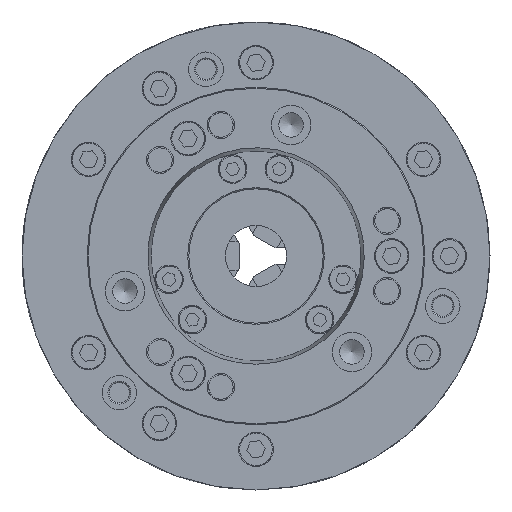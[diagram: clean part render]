
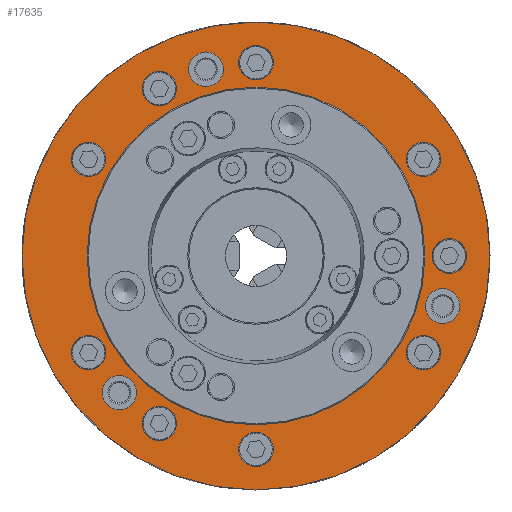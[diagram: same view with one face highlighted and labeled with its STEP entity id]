
A CAD part, left-side view. The second image highlights one B-rep face of the part: STEP entity #17635.
In plain terms, the highlighted planar face has unit normal (-1, 0, 0).
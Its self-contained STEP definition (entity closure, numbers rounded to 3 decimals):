
#86 = DIRECTION ( 'NONE',  ( 0., 0.866, -0.5 ) ) ;
#139 = CARTESIAN_POINT ( 'NONE',  ( -109.5, -74.911, -51.75 ) ) ;
#269 = VERTEX_POINT ( 'NONE', #28018 ) ;
#2335 = DIRECTION ( 'NONE',  ( -1., 0., 0. ) ) ;
#2368 = AXIS2_PLACEMENT_3D ( 'NONE', #32914, #64635, #13812 ) ;
#2852 = EDGE_CURVE ( 'NONE', #31540, #31540, #77767, .T. ) ;
#2953 = ORIENTED_EDGE ( 'NONE', *, *, #16792, .T. ) ;
#3161 = VERTEX_POINT ( 'NONE', #139 ) ;
#5115 = CIRCLE ( 'NONE', #62289, 8.5 ) ;
#5527 = AXIS2_PLACEMENT_3D ( 'NONE', #6893, #56378, #50047 ) ;
#5602 = DIRECTION ( 'NONE',  ( 1., 0., 0. ) ) ;
#6122 = CARTESIAN_POINT ( 'NONE',  ( -109.5, 47.5, -73.772 ) ) ;
#6415 = EDGE_CURVE ( 'NONE', #269, #269, #10912, .T. ) ;
#6518 = FACE_BOUND ( 'NONE', #57819, .T. ) ;
#6660 = CARTESIAN_POINT ( 'NONE',  ( -109.5, -7.361, -90.75 ) ) ;
#6893 = CARTESIAN_POINT ( 'NONE',  ( -109.5, 67.175, -67.175 ) ) ;
#7162 = CARTESIAN_POINT ( 'NONE',  ( -109.5, 0., 95. ) ) ;
#7500 = CARTESIAN_POINT ( 'NONE',  ( -109.5, 24.588, 100.263 ) ) ;
#8444 = DIRECTION ( 'NONE',  ( 1., 0., 0. ) ) ;
#8596 = CIRCLE ( 'NONE', #5527, 8.5 ) ;
#8841 = AXIS2_PLACEMENT_3D ( 'NONE', #38607, #45421, #57501 ) ;
#8957 = CARTESIAN_POINT ( 'NONE',  ( -109.5, 82.272, -47.5 ) ) ;
#10759 = EDGE_CURVE ( 'NONE', #15949, #15949, #18090, .T. ) ;
#10912 = CIRCLE ( 'NONE', #68859, 8.5 ) ;
#11481 = FACE_BOUND ( 'NONE', #20672, .T. ) ;
#11663 = ORIENTED_EDGE ( 'NONE', *, *, #19365, .F. ) ;
#11939 = VERTEX_POINT ( 'NONE', #6122 ) ;
#13812 = DIRECTION ( 'NONE',  ( 0., 0., -1. ) ) ;
#14379 = DIRECTION ( 'NONE',  ( 0., 0., 1. ) ) ;
#15793 = CARTESIAN_POINT ( 'NONE',  ( -109.5, -82.272, 47.5 ) ) ;
#15949 = VERTEX_POINT ( 'NONE', #28533 ) ;
#16632 = ORIENTED_EDGE ( 'NONE', *, *, #19383, .F. ) ;
#16792 = EDGE_CURVE ( 'NONE', #71598, #71598, #21351, .T. ) ;
#17359 = FACE_BOUND ( 'NONE', #64740, .T. ) ;
#17635 = ADVANCED_FACE ( 'NONE', ( #57446, #21278, #51527, #28095, #34931, #11481, #17359, #18310, #49552, #76947, #67231, #6518, #22142, #74974 ), #24179, .T. ) ;
#18090 = CIRCLE ( 'NONE', #8841, 8.5 ) ;
#18310 = FACE_BOUND ( 'NONE', #53421, .T. ) ;
#19365 = EDGE_CURVE ( 'NONE', #3161, #3161, #47651, .T. ) ;
#19383 = EDGE_CURVE ( 'NONE', #67759, #67759, #8596, .T. ) ;
#19463 = CARTESIAN_POINT ( 'NONE',  ( -109.5, -82.272, -47.5 ) ) ;
#19825 = EDGE_LOOP ( 'NONE', ( #76061 ) ) ;
#20396 = CARTESIAN_POINT ( 'NONE',  ( -109.5, -91.763, -24.588 ) ) ;
#20672 = EDGE_LOOP ( 'NONE', ( #39688 ) ) ;
#20776 = EDGE_CURVE ( 'NONE', #34433, #34433, #53427, .T. ) ;
#21278 = FACE_BOUND ( 'NONE', #53108, .T. ) ;
#21351 = CIRCLE ( 'NONE', #2368, 83. ) ;
#22142 = FACE_BOUND ( 'NONE', #44530, .T. ) ;
#22204 = EDGE_LOOP ( 'NONE', ( #16632 ) ) ;
#22365 = CIRCLE ( 'NONE', #22643, 8.5 ) ;
#22591 = VERTEX_POINT ( 'NONE', #27949 ) ;
#22643 = AXIS2_PLACEMENT_3D ( 'NONE', #15793, #46621, #78618 ) ;
#22694 = CIRCLE ( 'NONE', #50756, 8.5 ) ;
#22781 = CARTESIAN_POINT ( 'NONE',  ( -109.5, 0., 0. ) ) ;
#23055 = EDGE_CURVE ( 'NONE', #11939, #11939, #22694, .T. ) ;
#23094 = EDGE_LOOP ( 'NONE', ( #55568 ) ) ;
#23860 = DIRECTION ( 'NONE',  ( 1., 0., 0. ) ) ;
#24179 = PLANE ( 'NONE',  #70899 ) ;
#25211 = DIRECTION ( 'NONE',  ( -1., 0., 0. ) ) ;
#25584 = VERTEX_POINT ( 'NONE', #7500 ) ;
#26585 = EDGE_LOOP ( 'NONE', ( #2953 ) ) ;
#27373 = ORIENTED_EDGE ( 'NONE', *, *, #65756, .F. ) ;
#27949 = CARTESIAN_POINT ( 'NONE',  ( -109.5, -91.763, -16.088 ) ) ;
#28018 = CARTESIAN_POINT ( 'NONE',  ( -109.5, 40.139, 78.022 ) ) ;
#28095 = FACE_BOUND ( 'NONE', #26585, .T. ) ;
#28533 = CARTESIAN_POINT ( 'NONE',  ( -109.5, 82.272, 39. ) ) ;
#28767 = ORIENTED_EDGE ( 'NONE', *, *, #48179, .F. ) ;
#31540 = VERTEX_POINT ( 'NONE', #46823 ) ;
#32276 = DIRECTION ( 'NONE',  ( 0., 0., 1. ) ) ;
#32387 = ORIENTED_EDGE ( 'NONE', *, *, #6415, .F. ) ;
#32914 = CARTESIAN_POINT ( 'NONE',  ( -109.5, 0., 0. ) ) ;
#34433 = VERTEX_POINT ( 'NONE', #49836 ) ;
#34907 = DIRECTION ( 'NONE',  ( 0., 0., 1. ) ) ;
#34931 = FACE_OUTER_BOUND ( 'NONE', #23094, .T. ) ;
#35640 = DIRECTION ( 'NONE',  ( 0., 0., -1. ) ) ;
#37205 = EDGE_CURVE ( 'NONE', #74427, #74427, #80098, .T. ) ;
#38080 = CARTESIAN_POINT ( 'NONE',  ( -109.5, 0., -115. ) ) ;
#38401 = CARTESIAN_POINT ( 'NONE',  ( -109.5, 47.5, 82.272 ) ) ;
#38607 = CARTESIAN_POINT ( 'NONE',  ( -109.5, 82.272, 47.5 ) ) ;
#39144 = CARTESIAN_POINT ( 'NONE',  ( -109.5, -7.361, 90.75 ) ) ;
#39518 = ORIENTED_EDGE ( 'NONE', *, *, #2852, .T. ) ;
#39688 = ORIENTED_EDGE ( 'NONE', *, *, #20776, .F. ) ;
#40327 = DIRECTION ( 'NONE',  ( 0., -0.866, 0.5 ) ) ;
#40965 = EDGE_CURVE ( 'NONE', #25584, #25584, #52074, .T. ) ;
#42735 = CARTESIAN_POINT ( 'NONE',  ( -109.5, 0., -83. ) ) ;
#42751 = AXIS2_PLACEMENT_3D ( 'NONE', #70990, #8444, #40327 ) ;
#42978 = EDGE_CURVE ( 'NONE', #76395, #76395, #22365, .T. ) ;
#42990 = DIRECTION ( 'NONE',  ( -1., 0., 0. ) ) ;
#44530 = EDGE_LOOP ( 'NONE', ( #32387 ) ) ;
#45353 = DIRECTION ( 'NONE',  ( -1., 0., 0. ) ) ;
#45366 = DIRECTION ( 'NONE',  ( 0., -0.866, -0.5 ) ) ;
#45421 = DIRECTION ( 'NONE',  ( 1., 0., 0. ) ) ;
#45557 = EDGE_CURVE ( 'NONE', #55848, #55848, #50864, .T. ) ;
#46218 = EDGE_LOOP ( 'NONE', ( #11663 ) ) ;
#46570 = AXIS2_PLACEMENT_3D ( 'NONE', #70284, #45353, #32276 ) ;
#46621 = DIRECTION ( 'NONE',  ( 1., 0., 0. ) ) ;
#46823 = CARTESIAN_POINT ( 'NONE',  ( -109.5, -87.639, 4.25 ) ) ;
#47651 = CIRCLE ( 'NONE', #78292, 8.5 ) ;
#47813 = AXIS2_PLACEMENT_3D ( 'NONE', #22781, #23860, #35640 ) ;
#48179 = EDGE_CURVE ( 'NONE', #50981, #50981, #77929, .T. ) ;
#49552 = FACE_BOUND ( 'NONE', #46218, .T. ) ;
#49554 = DIRECTION ( 'NONE',  ( 0., 0., 1. ) ) ;
#49562 = CARTESIAN_POINT ( 'NONE',  ( -109.5, 67.175, -58.675 ) ) ;
#49836 = CARTESIAN_POINT ( 'NONE',  ( -109.5, 82.272, -39. ) ) ;
#50047 = DIRECTION ( 'NONE',  ( 0., 0., 1. ) ) ;
#50756 = AXIS2_PLACEMENT_3D ( 'NONE', #65205, #53381, #78522 ) ;
#50864 = CIRCLE ( 'NONE', #47813, 115. ) ;
#50981 = VERTEX_POINT ( 'NONE', #39144 ) ;
#51527 = FACE_BOUND ( 'NONE', #22204, .T. ) ;
#52074 = CIRCLE ( 'NONE', #46570, 8.5 ) ;
#53108 = EDGE_LOOP ( 'NONE', ( #27373 ) ) ;
#53381 = DIRECTION ( 'NONE',  ( -1., 0., 0. ) ) ;
#53421 = EDGE_LOOP ( 'NONE', ( #71172 ) ) ;
#53427 = CIRCLE ( 'NONE', #54835, 8.5 ) ;
#54781 = CARTESIAN_POINT ( 'NONE',  ( -109.5, 57.5, -99.593 ) ) ;
#54835 = AXIS2_PLACEMENT_3D ( 'NONE', #8957, #59251, #34907 ) ;
#55568 = ORIENTED_EDGE ( 'NONE', *, *, #45557, .F. ) ;
#55848 = VERTEX_POINT ( 'NONE', #38080 ) ;
#56378 = DIRECTION ( 'NONE',  ( -1., 0., 0. ) ) ;
#57177 = ORIENTED_EDGE ( 'NONE', *, *, #23055, .F. ) ;
#57446 = FACE_BOUND ( 'NONE', #62857, .T. ) ;
#57501 = DIRECTION ( 'NONE',  ( 0., 0., -1. ) ) ;
#57819 = EDGE_LOOP ( 'NONE', ( #28767 ) ) ;
#58184 = EDGE_LOOP ( 'NONE', ( #39518 ) ) ;
#59251 = DIRECTION ( 'NONE',  ( -1., 0., 0. ) ) ;
#60216 = AXIS2_PLACEMENT_3D ( 'NONE', #79677, #5602, #61141 ) ;
#61141 = DIRECTION ( 'NONE',  ( 0., 0.866, 0.5 ) ) ;
#62289 = AXIS2_PLACEMENT_3D ( 'NONE', #20396, #2335, #14379 ) ;
#62821 = ORIENTED_EDGE ( 'NONE', *, *, #40965, .F. ) ;
#62857 = EDGE_LOOP ( 'NONE', ( #62821 ) ) ;
#64635 = DIRECTION ( 'NONE',  ( 1., 0., 0. ) ) ;
#64740 = EDGE_LOOP ( 'NONE', ( #57177 ) ) ;
#65205 = CARTESIAN_POINT ( 'NONE',  ( -109.5, 47.5, -82.272 ) ) ;
#65756 = EDGE_CURVE ( 'NONE', #22591, #22591, #5115, .T. ) ;
#67091 = DIRECTION ( 'NONE',  ( -1., 0., 0. ) ) ;
#67231 = FACE_BOUND ( 'NONE', #75422, .T. ) ;
#67759 = VERTEX_POINT ( 'NONE', #49562 ) ;
#68859 = AXIS2_PLACEMENT_3D ( 'NONE', #38401, #67091, #74108 ) ;
#70100 = CARTESIAN_POINT ( 'NONE',  ( -109.5, -74.911, 51.75 ) ) ;
#70284 = CARTESIAN_POINT ( 'NONE',  ( -109.5, 24.588, 91.763 ) ) ;
#70899 = AXIS2_PLACEMENT_3D ( 'NONE', #54781, #42990, #49554 ) ;
#70990 = CARTESIAN_POINT ( 'NONE',  ( -109.5, 0., -95. ) ) ;
#71172 = ORIENTED_EDGE ( 'NONE', *, *, #37205, .T. ) ;
#71598 = VERTEX_POINT ( 'NONE', #42735 ) ;
#73281 = ORIENTED_EDGE ( 'NONE', *, *, #42978, .T. ) ;
#74108 = DIRECTION ( 'NONE',  ( 0., -0.866, -0.5 ) ) ;
#74427 = VERTEX_POINT ( 'NONE', #6660 ) ;
#74808 = AXIS2_PLACEMENT_3D ( 'NONE', #7162, #76279, #45366 ) ;
#74974 = FACE_BOUND ( 'NONE', #19825, .T. ) ;
#75422 = EDGE_LOOP ( 'NONE', ( #73281 ) ) ;
#76061 = ORIENTED_EDGE ( 'NONE', *, *, #10759, .T. ) ;
#76279 = DIRECTION ( 'NONE',  ( -1., 0., 0. ) ) ;
#76395 = VERTEX_POINT ( 'NONE', #70100 ) ;
#76947 = FACE_BOUND ( 'NONE', #58184, .T. ) ;
#77767 = CIRCLE ( 'NONE', #60216, 8.5 ) ;
#77929 = CIRCLE ( 'NONE', #74808, 8.5 ) ;
#78292 = AXIS2_PLACEMENT_3D ( 'NONE', #19463, #25211, #86 ) ;
#78522 = DIRECTION ( 'NONE',  ( 0., 0., 1. ) ) ;
#78618 = DIRECTION ( 'NONE',  ( 0., 0.866, 0.5 ) ) ;
#79677 = CARTESIAN_POINT ( 'NONE',  ( -109.5, -95., 0. ) ) ;
#80098 = CIRCLE ( 'NONE', #42751, 8.5 ) ;
